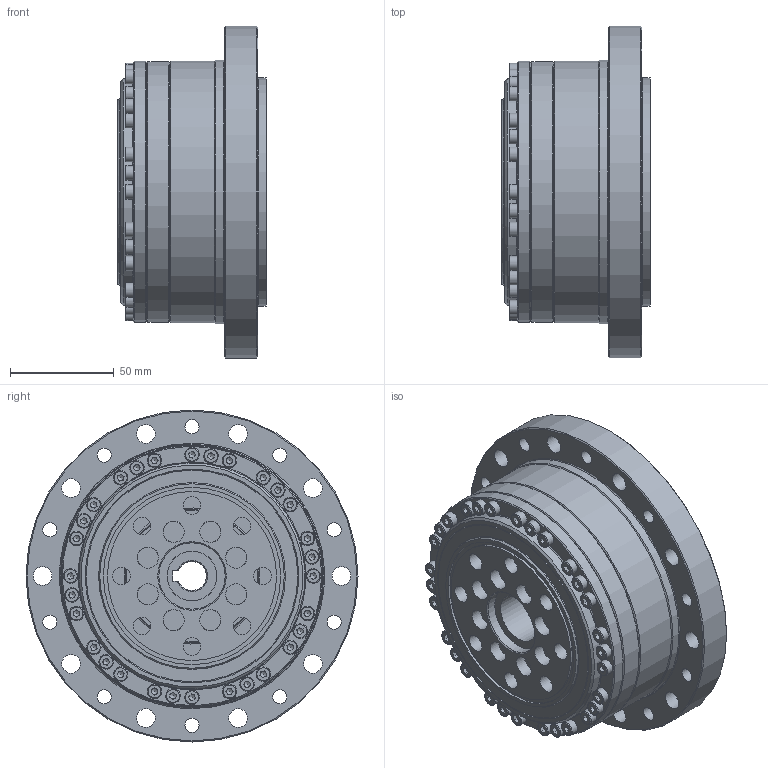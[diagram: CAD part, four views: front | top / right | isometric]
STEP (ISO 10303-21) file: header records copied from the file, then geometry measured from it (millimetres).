
FILE_DESCRIPTION (( 'STEP AP203' ), '1' );
FILE_NAME ('LCSG-40-XXX-C-I.STEP', '2025-01-20T02:07:52', ( '' ), ( '' ), 'SwSTEP 2.0', 'SolidWorks 2023', '' );
FILE_SCHEMA (( 'CONFIG_CONTROL_DESIGN' ));
Length unit declared in the file: metre
Products named in the file (1): LCSG-40-XXX-C-I
Bounding box: 71.5 x 160 x 160 mm (x, y, z)
Volume: 679654.7 mm3; surface area: 319043.4 mm2
Topology: 80 solids, 80 shells, 1464 faces, 3458 edges, 2179 vertices
Faces by surface type: plane 770, cylinder 376, cone 193, bspline 125
Full cylindrical faces by diameter (mm): 2.5 x4, 3 x4, 3.3 x31, 3.4 x16, 4 x34, 4.2 x4, 4.5 x50, 5.5 x20, 6.8 x10, 7 x30, 8.5 x8, 9 x10, 10.2 x8, 12 x8, 12.5 x16, 18 x8, 24 x2, 28 x2, 32 x2, 40 x1, 40.2 x4, 64 x1, 66 x1, 67 x5, 70.5 x1, 71.5 x1, 72 x1, 75 x5, 76.928 x2, 78.13 x1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
Entity records: 45337 total; most frequent: CARTESIAN_POINT 14876, DIRECTION 6332, ORIENTED_EDGE 5294, EDGE_CURVE 2647, AXIS2_PLACEMENT_3D 2587, EDGE_LOOP 2446, VERTEX_POINT 1981, FACE_OUTER_BOUND 1872
